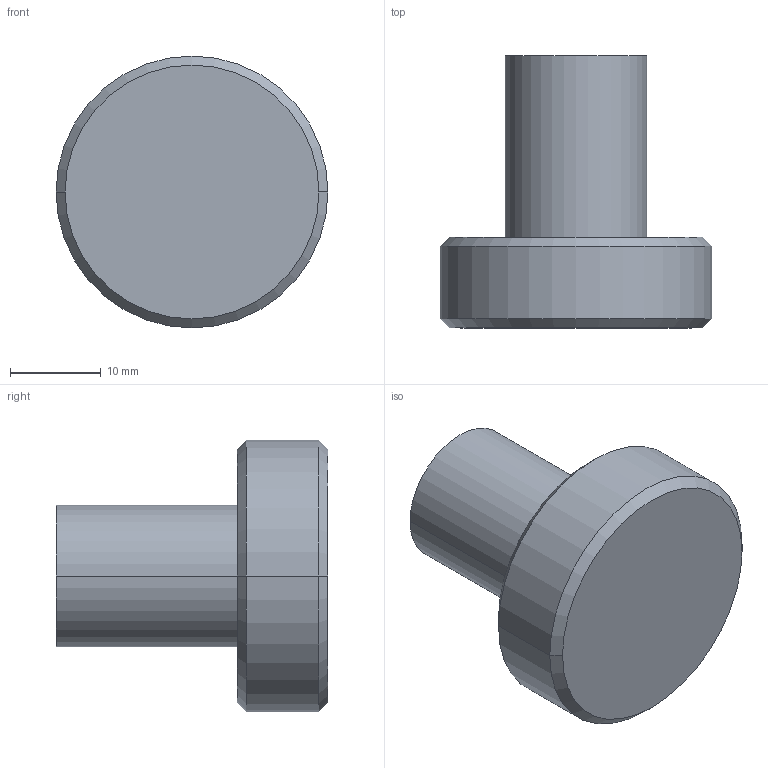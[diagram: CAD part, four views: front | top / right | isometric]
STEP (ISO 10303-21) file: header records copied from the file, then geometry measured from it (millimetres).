
FILE_DESCRIPTION( ( '' ), '1' );
FILE_NAME( 'C:/Documents and Settings/Nikhil/Desktop/Nik/Done/9113326.stp', '2013-10-24T05:02:22', ( '' ), ( '' ), ' ', ' ', ' ' );
FILE_SCHEMA( ( 'automotive_design' ) );
Length unit declared in the file: millimetre
Products named in the file (1): 1
Bounding box: 30 x 30 x 30 mm (x, y, z)
Volume: 10692.3 mm3; surface area: 3330.2 mm2
Topology: 1 solids, 1 shells, 14 faces, 26 edges, 16 vertices
Faces by surface type: cylinder 6, cone 4, plane 4
Entity records: 700 total; most frequent: DIRECTION 72, STYLED_ITEM 57, PRESENTATION_STYLE_ASSIGNMENT 57, CARTESIAN_POINT 57, COLOUR_RGB 57, ORIENTED_EDGE 52, AXIS2_PLACEMENT_3D 31, EDGE_CURVE 26
